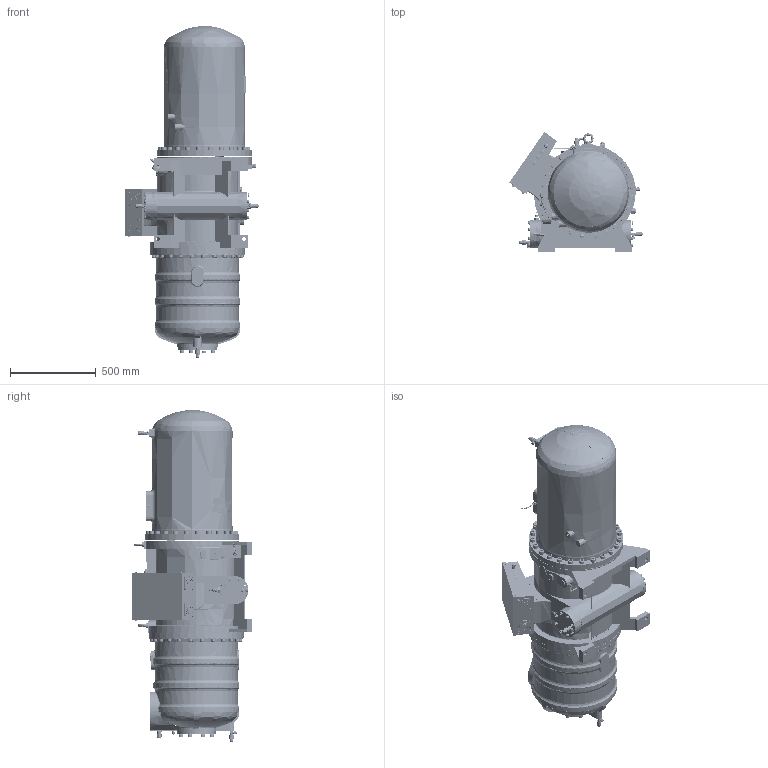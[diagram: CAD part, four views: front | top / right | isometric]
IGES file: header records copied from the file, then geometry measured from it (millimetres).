
Start section: SolidWorks IGES file using analytic representation for surfaces
Global section: file name: \\Datacenterrd1\@研發部\設計一課(冷媒)\(1)-文管中心\(2)-3D文管\(8)-Compressor 3Doutline(Surface)\RC2\RC2-A\IGS\RC2-830A outline.IGS; native system: SolidWorks 2013; preprocessor: SolidWorks 2013; author: hedylu; date: 141225.165531; units: centimetre
Bounding box: 776.8 x 700.45 x 1934 mm (x, y, z)
Surface area: 6346094.4 mm2 (no closed solid volume)
Topology: 0 solids, 0 shells, 2994 faces, 59877 edges, 59861 vertices
Faces by surface type: bspline 1966, revolution 1028
